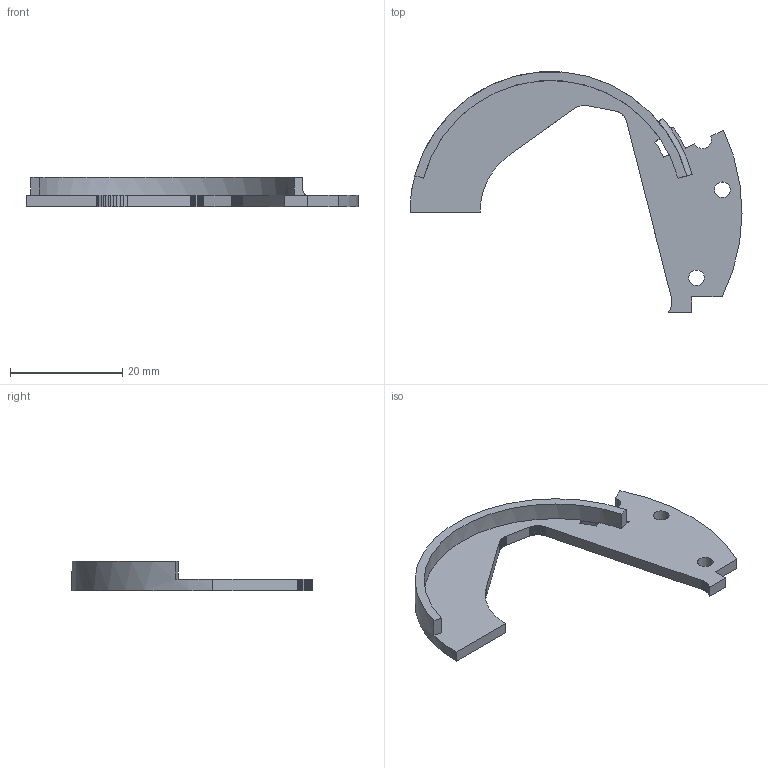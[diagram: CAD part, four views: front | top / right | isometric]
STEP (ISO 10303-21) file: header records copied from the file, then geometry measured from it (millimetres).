
FILE_DESCRIPTION(('Open CASCADE Model'),'2;1');
FILE_NAME('Open CASCADE Shape Model','2026-11-23T18:10:05',('Author'),( 'Open CASCADE'),'Open CASCADE STEP processor 8.0','build123d', 'Unknown');
FILE_SCHEMA(('AUTOMOTIVE_DESIGN { 1 0 10303 214 1 1 1 1 }'));
Length unit declared in the file: millimetre
Products named in the file (1): SOLID
Bounding box: 59.2 x 42.84 x 5.2 mm (x, y, z)
Volume: 2125.9 mm3; surface area: 2678.3 mm2
Topology: 1 solids, 1 shells, 88 faces, 260 edges, 173 vertices
Faces by surface type: plane 78, cylinder 9, torus 1
Full cylindrical faces by diameter (mm): 2.8 x2
Entity records: 5992 total; most frequent: CARTESIAN_POINT 1373, DIRECTION 664, ORIENTED_EDGE 520, PCURVE 520, DEFINITIONAL_REPRESENTATION 520, LINE 408, VECTOR 408, B_SPLINE_CURVE_WITH_KNOTS 319
